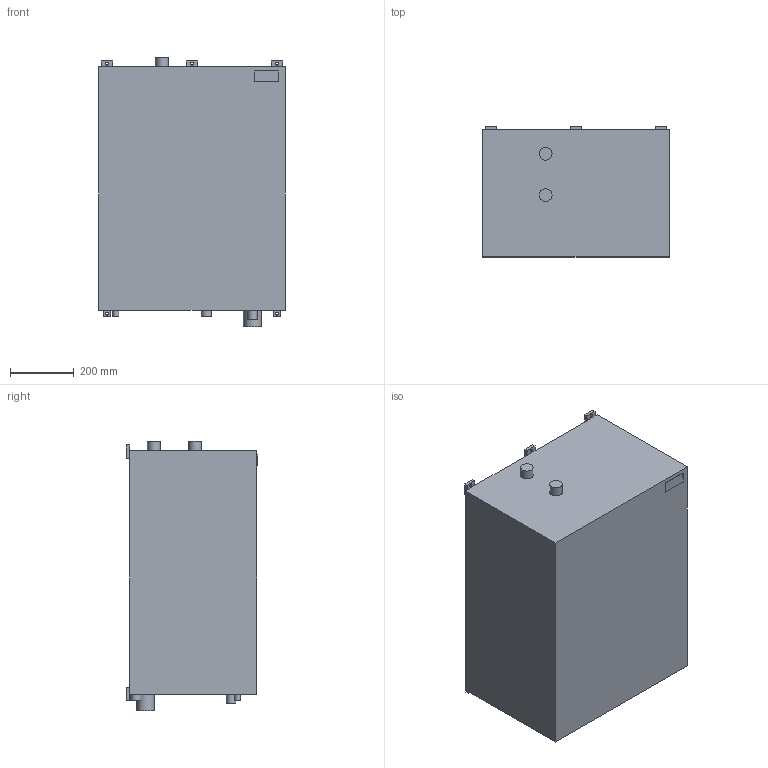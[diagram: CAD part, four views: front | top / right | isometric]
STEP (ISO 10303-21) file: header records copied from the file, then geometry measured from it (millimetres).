
FILE_DESCRIPTION(/* description */ ('AP214'),/* implementation_level */ '2;1');
FILE_NAME(/* name */ 'SLE45-65_SLH40-50-V',/* time_stamp */ '2018-04-05T09:58:27+02:00',/* author */ ('M.Schreck'),/* organization */ ('Hygromatik'),/* preprocessor_version */ 'ST-DEVELOPER v16.7',/* originating_system */ 'DEX',/* authorisation */ $);
FILE_SCHEMA (('AUTOMOTIVE_DESIGN {1 0 10303 214 3 1 1}'));
Length unit declared in the file: millimetre
Products named in the file (1): SLE45-65_SLH40-50-V
Bounding box: 588 x 413.4 x 849.12 mm (x, y, z)
Volume: 181164463.2 mm3; surface area: 2025802.1 mm2
Topology: 1 solids, 1 shells, 58 faces, 145 edges, 96 vertices
Faces by surface type: plane 47, cylinder 11
Full cylindrical faces by diameter (mm): 9 x5, 19.05 x1, 30 x1, 32 x1, 40 x2, 56.125 x1
Entity records: 1638 total; most frequent: CARTESIAN_POINT 273, DIRECTION 266, ORIENTED_EDGE 252, EDGE_CURVE 126, LINE 104, VECTOR 104, VERTEX_POINT 88, EDGE_LOOP 86
